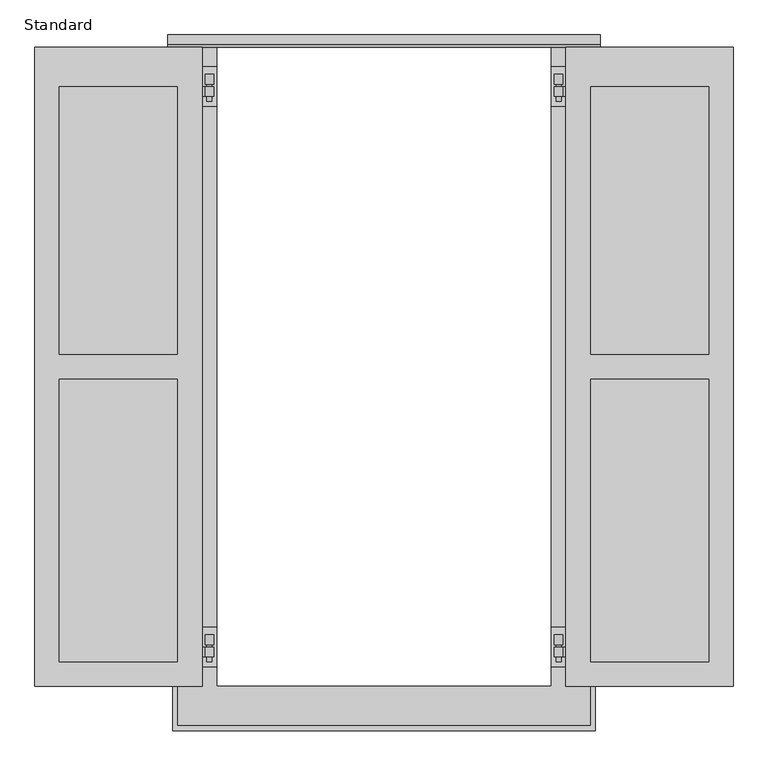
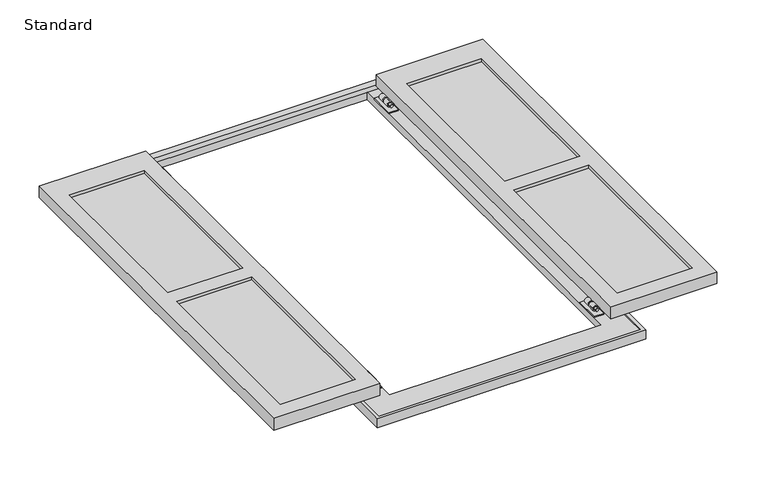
"""IFC4 building model written with IfcOpenShell, lengths in millimetres: proxy geometry, Shutters-Trim-Window-Exterior-Flat-Backband-Colonial : Standard."""

import ifcopenshell
import ifcopenshell.guid

model = None  # the IFC model being written
_history = None  # IfcOwnerHistory: only IFC2X3 demands one
_inside = {}  # id of a spatial element -> (the spatial element, [elements in it])
_under = {}  # id of a project, library or spatial element -> (it, [spatial elements below it])
_declared = {}  # id of a project -> (the project, [libraries it declares])
_typed = {}  # id of a type object -> (the type object, [elements of that type])
_made_of = {}  # id of a material, layer set ... -> (it, [elements and type objects made of it])


def new_model(schema):
    """Start an empty IFC model of exactly this schema.

    Asked for "IFC4X3", IfcOpenShell would pick the latest addendum, in which some entities
    have other attributes; the version numbers below select the first issue.
    IFC2X3 requires an IfcOwnerHistory on every rooted entity: one is made here for all.
    """
    global model, _history
    if schema == "IFC4X3":
        model = ifcopenshell.file(schema_version=(4, 3, 0, 0))
    else:
        model = ifcopenshell.file(schema=schema)
    _inside.clear()
    _under.clear()
    _declared.clear()
    _typed.clear()
    _made_of.clear()
    _history = None
    if model.schema == "IFC2X3":
        org = make("IfcOrganization", Name="unknown")
        user = make(
            "IfcPersonAndOrganization",
            ThePerson=make("IfcPerson", FamilyName="unknown"),
            TheOrganization=org,
        )
        app = make(
            "IfcApplication",
            ApplicationDeveloper=org,
            Version="unknown",
            ApplicationFullName="unknown",
            ApplicationIdentifier="unknown",
        )
        _history = make(
            "IfcOwnerHistory",
            OwningUser=user,
            OwningApplication=app,
            ChangeAction="ADDED",
            CreationDate=0,
        )
    return model


def make(cls, **values):
    """One entity of the class cls with the attributes given. An attribute that is None is left unset."""
    return model.create_entity(
        cls, **{name: value for name, value in values.items() if value is not None}
    )


def rooted(cls, **values):
    """An entity with a GlobalId (a new one), such as an element, a storey or a relation."""
    return make(cls, GlobalId=ifcopenshell.guid.new(), OwnerHistory=_history, **values)


def si_unit(unit_type, name, prefix=None):
    """IfcSIUnit, for example si_unit("LENGTHUNIT", "METRE", prefix="MILLI")."""
    return make("IfcSIUnit", UnitType=unit_type, Prefix=prefix, Name=name)


def assignment(units):
    """IfcUnitAssignment: the units of a project."""
    return None if units is None else make("IfcUnitAssignment", Units=units)


def point(xyz):
    """IfcCartesianPoint."""
    return None if xyz is None else make("IfcCartesianPoint", Coordinates=xyz)


def direction(xyz):
    """IfcDirection."""
    return None if xyz is None else make("IfcDirection", DirectionRatios=xyz)


def frame(location, z_axis=None, x_axis=None):
    """IfcAxis2Placement3D, a coordinate frame: its origin and axes. An axis left out is left unset."""
    return make(
        "IfcAxis2Placement3D",
        Location=point(location),
        Axis=direction(z_axis),
        RefDirection=direction(x_axis),
    )


def origin():
    """The frame at (0, 0, 0) with its axes left unset."""
    return frame((0.0, 0.0, 0.0))


def place(relative_to, where):
    """IfcLocalPlacement: puts the frame where relative to a parent placement (None: the world)."""
    return make(
        "IfcLocalPlacement", PlacementRelTo=relative_to, RelativePlacement=where
    )


def context(
    kind, dimensions, precision=None, world=None, true_north=None, identifier=None
):
    """IfcGeometricRepresentationContext, for example the 3D "Model" context."""
    return make(
        "IfcGeometricRepresentationContext",
        ContextIdentifier=identifier,
        ContextType=kind,
        CoordinateSpaceDimension=dimensions,
        Precision=precision,
        WorldCoordinateSystem=world,
        TrueNorth=true_north,
    )


def project(units=None, contexts=None):
    """IfcProject with its units and contexts."""
    return rooted(
        "IfcProject",
        Name="project",
        RepresentationContexts=contexts,
        UnitsInContext=assignment(units),
    )


def spatial(cls, under=None, at=None, **own):
    """A site, building, storey or space (cls), placed at a placement, below another one or the project."""
    s = rooted(cls, ObjectPlacement=at, **own)
    if under is not None:
        _under.setdefault(under.id(), (under, []))[1].append(s)
    return s


def polyline(points):
    """IfcPolyline through the points."""
    return make("IfcPolyline", Points=[point(p) for p in points])


def circle_curve(where, radius):
    """IfcCircle in the frame where."""
    return make("IfcCircle", Position=where, Radius=radius)


def outline(outer, holes=None, kind="AREA"):
    """IfcArbitraryClosedProfileDef: a profile drawn as a closed curve; with holes, ...WithVoids."""
    if holes is None:
        return make("IfcArbitraryClosedProfileDef", ProfileType=kind, OuterCurve=outer)
    return make(
        "IfcArbitraryProfileDefWithVoids",
        ProfileType=kind,
        OuterCurve=outer,
        InnerCurves=holes,
    )


def extrude(swept, where, along, depth):
    """IfcExtrudedAreaSolid: the profile swept, set in the frame where, extruded along a direction by depth."""
    return make(
        "IfcExtrudedAreaSolid",
        SweptArea=swept,
        Position=where,
        ExtrudedDirection=direction(along),
        Depth=depth,
    )


def faces_of(points, faces, orient=None, outer=None):
    """IfcFace entities. A face is a list of loops; a loop is a list of indices into points, from 0.

    orient and outer hold one flag for each loop. By default every Orientation is true, the
    first loop of a face is its IfcFaceOuterBound and the others are IfcFaceBound.
    """
    made = []
    for i, loops in enumerate(faces):
        bounds = []
        for j, loop in enumerate(loops):
            is_outer = j == 0 if outer is None else outer[i][j]
            bounds.append(
                make(
                    "IfcFaceOuterBound" if is_outer else "IfcFaceBound",
                    Bound=make("IfcPolyLoop", Polygon=[points[k] for k in loop]),
                    Orientation=True if orient is None else orient[i][j],
                )
            )
        made.append(make("IfcFace", Bounds=bounds))
    return made


def faceted_brep(points, faces, orient=None, outer=None, voids=None):
    """IfcFacetedBrep: a solid bounded by flat faces; with voids (closed shells), ...WithVoids."""
    shared = [point(p) for p in points]
    hull = make("IfcClosedShell", CfsFaces=faces_of(shared, faces, orient, outer))
    if voids is None:
        return make("IfcFacetedBrep", Outer=hull)
    return make(
        "IfcFacetedBrepWithVoids",
        Outer=hull,
        Voids=[
            make(cls, CfsFaces=faces_of(shared, fs, o, b)) for cls, fs, o, b in voids
        ],
    )


def shape(context_of_items, identifier, shape_type, items):
    """IfcShapeRepresentation: the items that make up one representation, for example the "Body"."""
    return make(
        "IfcShapeRepresentation",
        ContextOfItems=context_of_items,
        RepresentationIdentifier=identifier,
        RepresentationType=shape_type,
        Items=items,
    )


def source(mapping_origin, context_of_items, identifier, shape_type, items):
    """IfcRepresentationMap: a shape defined once, which mapped items show again and again."""
    return make(
        "IfcRepresentationMap",
        MappingOrigin=mapping_origin,
        MappedRepresentation=shape(context_of_items, identifier, shape_type, items),
    )


def transform(
    local_origin,
    x_axis=None,
    y_axis=None,
    z_axis=None,
    scale=None,
    scale2=None,
    scale3=None,
    uniform=True,
):
    """IfcCartesianTransformationOperator3D, or its non-uniform kind. x_axis, y_axis, z_axis: its Axis1, 2, 3."""
    if uniform:
        return make(
            "IfcCartesianTransformationOperator3D",
            Axis1=direction(x_axis),
            Axis2=direction(y_axis),
            LocalOrigin=point(local_origin),
            Scale=scale,
            Axis3=direction(z_axis),
        )
    return make(
        "IfcCartesianTransformationOperator3DnonUniform",
        Axis1=direction(x_axis),
        Axis2=direction(y_axis),
        LocalOrigin=point(local_origin),
        Scale=scale,
        Axis3=direction(z_axis),
        Scale2=scale2,
        Scale3=scale3,
    )


def mapped(mapping_source, mapping_target):
    """IfcMappedItem: shows the shape of a source again, moved by a transform."""
    return make(
        "IfcMappedItem", MappingSource=mapping_source, MappingTarget=mapping_target
    )


def made_of(thing, what):
    """Note that an element or type object is made of a material, layer set ...; save() writes the relation."""
    if what is not None:
        _made_of.setdefault(what.id(), (what, []))[1].append(thing)
    return thing


def element(
    cls,
    number,
    at=None,
    inside=None,
    cuts=None,
    type_object=None,
    material=None,
    context=None,
    identifier="Body",
    shape_type=None,
    held_by="IfcProductDefinitionShape",
    body=None,
    shapes=None,
    **own,
):
    """One element of the class cls, such as IfcWall. Its Tag is "e" and its number.

    at: its placement. inside: the storey or other place that contains it. cuts: it is an
    opening in that element (IfcRelVoidsElement). A single representation is given by context,
    identifier, shape_type and body (its items); several are given by shapes. held_by: the class
    of the entity that holds the representations. save() writes the other relations.
    """
    e = rooted(cls, Tag="e%d" % number, ObjectPlacement=at, **own)
    if body is not None:
        shapes = [shape(context, identifier, shape_type, body)]
    if shapes is not None:
        e.Representation = make(held_by, Representations=shapes)
    if inside is not None:
        _inside.setdefault(inside.id(), (inside, []))[1].append(e)
    if cuts is not None:
        rooted(
            "IfcRelVoidsElement", RelatingBuildingElement=cuts, RelatedOpeningElement=e
        )
    if type_object is not None:
        _typed.setdefault(type_object.id(), (type_object, []))[1].append(e)
    return made_of(e, material)


def aggregate(whole, parts):
    """IfcRelAggregates: a whole, such as a stair, and the parts it consists of."""
    return rooted("IfcRelAggregates", RelatingObject=whole, RelatedObjects=parts)


def save(model, path):
    """Write the relations noted so far, then the file.

    IfcRelAggregates (storeys below a building ...), IfcRelContainedInSpatialStructure (elements
    in a storey), IfcRelDefinesByType, IfcRelAssociatesMaterial and IfcRelDeclares: one each for
    every whole, place, type object, material and project.
    """
    for whole, parts in _under.values():
        aggregate(whole, parts)
    for where, things in _inside.values():
        rooted(
            "IfcRelContainedInSpatialStructure",
            RelatedElements=things,
            RelatingStructure=where,
        )
    for kind, things in _typed.values():
        rooted("IfcRelDefinesByType", RelatedObjects=things, RelatingType=kind)
    for what, things in _made_of.values():
        rooted("IfcRelAssociatesMaterial", RelatedObjects=things, RelatingMaterial=what)
    for by, libraries in _declared.values():
        rooted("IfcRelDeclares", RelatingContext=by, RelatedDefinitions=libraries)
    model.write(path)


def plane_surface(at):
    """IfcPlane: the flat surface through the origin of the frame at, square to its z axis."""
    return make("IfcPlane", Position=at)


def cylinder_surface(at, radius):
    """IfcCylindricalSurface: all points at the distance radius from the z axis of the frame at."""
    return make("IfcCylindricalSurface", Position=at, Radius=radius)


def revolved_surface(curve, axis_point, axis_direction):
    """IfcSurfaceOfRevolution: the curve turned about the line through axis_point along axis_direction."""
    return make(
        "IfcSurfaceOfRevolution",
        SweptCurve=make("IfcArbitraryOpenProfileDef", ProfileType="CURVE", Curve=curve),
        AxisPosition=make("IfcAxis1Placement", Location=point(axis_point), Axis=direction(axis_direction)),
    )


def advanced_brep(points, edges, surfaces, faces):
    """IfcAdvancedBrep: a solid bounded by faces that lie on surfaces and meet in shared edges.

    An edge is (start, end): straight between two places in points (the first is 0);
    or (start, end, curve); or (start, end, curve, False) where it runs against its curve.
    A face is (place in surfaces, loops), or (place, loops, False) where it looks against
    its surface's normal. A loop lists edges by number (the first is 1), with a minus sign
    where the edge is run from its end to its start. The first loop is the outer one.
    """
    corners = [point(p) for p in points]
    vertices = [make("IfcVertexPoint", VertexGeometry=c) for c in corners]
    made = []
    for start, end, *more in edges:
        made.append(
            make(
                "IfcEdgeCurve",
                EdgeStart=vertices[start],
                EdgeEnd=vertices[end],
                EdgeGeometry=more[0] if more else make("IfcPolyline", Points=[corners[start], corners[end]]),
                SameSense=more[1] if len(more) > 1 else True,
            )
        )
    hull = []
    for where, loops, *sense in faces:
        bounds = []
        for j, loop in enumerate(loops):
            ring = [make("IfcOrientedEdge", EdgeElement=made[abs(k) - 1], Orientation=k > 0) for k in loop]
            bounds.append(
                make(
                    "IfcFaceOuterBound" if j == 0 else "IfcFaceBound",
                    Bound=make("IfcEdgeLoop", EdgeList=ring),
                    Orientation=True,
                )
            )
        hull.append(make("IfcAdvancedFace", Bounds=bounds, FaceSurface=surfaces[where], SameSense=sense[0] if sense else True))
    return make("IfcAdvancedBrep", Outer=make("IfcClosedShell", CfsFaces=hull))


def standard_04e2984d(model_context):
    return source(origin(), model_context, "Body", "SolidModel", [
        extrude(outline(polyline([(-901.7, 0.0), (-901.7, 1651.0), (-469.9, 1651.0), (-469.9, 0.0), (-901.7, 0.0)]), holes=[polyline([(-838.2, 63.5), (-533.4, 63.5), (-533.4, 793.75), (-838.2, 793.75), (-838.2, 63.5)]), polyline([(-533.4, 857.25), (-533.4, 1549.4), (-838.2, 1549.4), (-838.2, 857.25), (-533.4, 857.25)])]), frame((0.0, 0.0, 44.45), z_axis=(0.0, 0.0, 1.0), x_axis=(1.0, 0.0, 0.0)), (0.0, 0.0, 1.0), 50.8),
        extrude(outline(polyline([(-838.2, 63.5), (-838.2, 793.75), (-533.4, 793.75), (-533.4, 63.5), (-838.2, 63.5)])), frame((0.0, 0.0, 57.15), z_axis=(0.0, 0.0, 1.0), x_axis=(1.0, 0.0, 0.0)), (0.0, 0.0, 1.0), 25.4),
        extrude(outline(polyline([(-533.4, 857.25), (-838.2, 857.25), (-838.2, 1549.4), (-533.4, 1549.4), (-533.4, 857.25)])), frame((0.0, 0.0, 57.15), z_axis=(0.0, 0.0, 1.0), x_axis=(1.0, 0.0, 0.0)), (0.0, 0.0, 1.0), 25.4),
        extrude(outline(polyline([(901.7, 0.0), (469.9, 0.0), (469.9, 1651.0), (901.7, 1651.0), (901.7, 0.0)]), holes=[polyline([(838.2, 63.5), (838.2, 793.75), (533.4, 793.75), (533.4, 63.5), (838.2, 63.5)]), polyline([(533.4, 857.25), (838.2, 857.25), (838.2, 1549.4), (533.4, 1549.4), (533.4, 857.25)])]), frame((0.0, 0.0, 44.45), z_axis=(0.0, 0.0, 1.0), x_axis=(1.0, 0.0, 0.0)), (0.0, 0.0, 1.0), 50.8),
        extrude(outline(polyline([(838.2, 63.5), (533.4, 63.5), (533.4, 793.75), (838.2, 793.75), (838.2, 63.5)])), frame((0.0, 0.0, 57.15), z_axis=(0.0, 0.0, 1.0), x_axis=(1.0, 0.0, 0.0)), (0.0, 0.0, 1.0), 25.4),
        extrude(outline(polyline([(533.4, 857.25), (533.4, 1549.4), (838.2, 1549.4), (838.2, 857.25), (533.4, 857.25)])), frame((0.0, 0.0, 57.15), z_axis=(0.0, 0.0, 1.0), x_axis=(1.0, 0.0, 0.0)), (0.0, 0.0, 1.0), 25.4),
        extrude(outline(polyline([(-469.9, 1498.6), (-469.9, 1600.2), (-431.8, 1600.2), (-431.8, 1498.6), (-469.9, 1498.6)])), frame((0.0, 0.0, 31.75), z_axis=(0.0, 0.0, 1.0), x_axis=(1.0, 0.0, 0.0)), (0.0, 0.0, 1.0), 4.7625),
        advanced_brep(
        [(-515.9375, 1511.3, 44.45), (-515.9375, 1511.3, 39.6875), (-490.474, 1511.3, 39.6875), (-490.474, 1511.3, 44.45), (-515.9375, 1562.1, 39.6875), (-515.9375, 1562.1, 44.45), (-490.474, 1562.1, 44.45), (-490.474, 1562.1, 39.6875), (-490.474, 1549.4, 39.6875), (-450.85, 1549.4, 39.6875), (-450.85, 1524.0, 39.6875), (-490.474, 1524.0, 39.6875), (-490.474, 1524.0, 44.45), (-450.85, 1524.0, 44.45), (-450.85, 1549.4, 44.45), (-490.474, 1549.4, 44.45), (-457.2, 1549.4, 50.8), (-457.2, 1524.0, 50.8), (-457.2, 1549.4, 46.0375), (-457.2, 1524.0, 46.0375), (-461.9625, 1549.4, 46.0375), (-461.9625, 1524.0, 46.0375), (-461.9625, 1549.4, 50.8), (-461.9625, 1524.0, 50.8)],
        [
            (0, 1),
            (1, 2),
            (2, 3),
            (3, 0),
            (4, 5),
            (5, 6),
            (6, 7),
            (7, 4),
            (1, 4),
            (7, 8),
            (8, 9),
            (9, 10),
            (10, 11),
            (11, 2),
            (0, 5),
            (3, 12),
            (12, 13),
            (13, 14),
            (14, 15),
            (15, 6),
            (16, 14, circle_curve(frame((-450.85, 1549.4, 50.8), z_axis=(0.0, 1.0, 0.0), x_axis=(1.0, 0.0, 0.0)), 6.35)),
            (13, 17, circle_curve(frame((-450.85, 1524.0, 50.8), z_axis=(0.0, -1.0, 0.0), x_axis=(1.0, 0.0, 0.0)), 6.35)),
            (17, 16),
            (18, 16),
            (17, 19),
            (19, 18),
            (20, 18),
            (19, 21),
            (21, 20),
            (22, 20),
            (21, 23),
            (23, 22),
            (9, 22, circle_curve(frame((-450.85, 1549.4, 50.8), z_axis=(0.0, -1.0, 0.0), x_axis=(1.0, 0.0, 0.0)), 11.1125)),
            (23, 10, circle_curve(frame((-450.85, 1524.0, 50.8), z_axis=(0.0, 1.0, 0.0), x_axis=(1.0, 0.0, 0.0)), 11.1125)),
            (8, 15),
            (12, 11),
        ],
        [
            plane_surface(frame((-450.85, 1511.3, 50.8), z_axis=(0.0, -1.0, 0.0), x_axis=(0.0, 0.0, 1.0))),
            plane_surface(frame((-450.85, 1562.1, 50.8), z_axis=(0.0, 1.0, 0.0), x_axis=(0.0, 0.0, 1.0))),
            plane_surface(frame((-515.9375, 1511.3, 39.6875), z_axis=(0.0, 0.0, -1.0), x_axis=(0.0, 1.0, 0.0))),
            plane_surface(frame((-515.9375, 1511.3, 44.45), z_axis=(-1.0, 0.0, 0.0), x_axis=(0.0, 1.0, 0.0))),
            plane_surface(frame((-450.85, 1511.3, 44.45), z_axis=(0.0, 0.0, 1.0), x_axis=(0.0, 1.0, 0.0))),
            revolved_surface(polyline([(-444.5, 1549.4, 50.8), (-444.5, 1524.0, 50.8)]), (-450.85, 1511.3, 50.8), (0.0, 1.0, 0.0)),
            plane_surface(frame((-457.2, 1511.3, 46.0375), z_axis=(1.0, 0.0, 0.0), x_axis=(0.0, 1.0, 0.0))),
            plane_surface(frame((-461.9625, 1511.3, 46.0375), z_axis=(0.0, 0.0, -1.0), x_axis=(0.0, 1.0, 0.0))),
            plane_surface(frame((-461.9625, 1511.3, 50.8), z_axis=(-1.0, 0.0, 0.0), x_axis=(0.0, 1.0, 0.0))),
            cylinder_surface(frame((-450.85, 1511.3, 50.8), z_axis=(0.0, -1.0, 0.0), x_axis=(1.0, 0.0, 0.0)), 11.1125),
            plane_surface(frame((-450.85, 1549.4, 50.8), z_axis=(0.0, 1.0, 0.0), x_axis=(0.0, 0.0, 1.0))),
            plane_surface(frame((-490.474, 1549.4, 44.45), z_axis=(1.0, 0.0, 0.0), x_axis=(0.0, 1.0, 0.0))),
            plane_surface(frame((-450.85, 1524.0, 50.8), z_axis=(0.0, -1.0, 0.0), x_axis=(0.0, 0.0, 1.0))),
            plane_surface(frame((-490.474, 1511.3, 44.45), z_axis=(1.0, 0.0, 0.0), x_axis=(0.0, 1.0, 0.0))),
        ],
        [
            (0, [[1, 2, 3, 4]]),
            (1, [[5, 6, 7, 8]]),
            (2, [[9, -8, 10, 11, 12, 13, 14, -2]]),
            (3, [[-1, 15, -5, -9]]),
            (4, [[-15, -4, 16, 17, 18, 19, 20, -6]]),
            (5, [[21, -18, 22, 23]]),
            (6, [[24, -23, 25, 26]]),
            (7, [[27, -26, 28, 29]]),
            (8, [[30, -29, 31, 32]]),
            (9, [[33, -32, 34, -12]]),
            (10, [[35, -19, -21, -24, -27, -30, -33, -11]]),
            (11, [[-35, -10, -7, -20]]),
            (12, [[36, -13, -34, -31, -28, -25, -22, -17]]),
            (13, [[-36, -16, -3, -14]]),
        ],
    ),
        advanced_brep(
        [(-453.23125, 1555.75, 36.5125), (-448.46875, 1555.75, 36.5125), (-448.46875, 1555.75, 39.945632), (-453.23125, 1555.75, 39.945632), (-444.5, 1555.75, 50.8), (-457.2, 1555.75, 50.8), (-453.23125, 1581.15, 36.5125), (-453.23125, 1581.15, 39.945632), (-448.46875, 1581.15, 39.945632), (-448.46875, 1581.15, 36.5125), (-457.2, 1511.3, 50.8), (-444.5, 1511.3, 50.8)],
        [
            (0, 1),
            (1, 2),
            (2, 3, circle_curve(frame((-450.85, 1555.75, 50.8), z_axis=(0.0, -1.0, 0.0), x_axis=(1.0, 0.0, 0.0)), 11.1125)),
            (3, 0),
            (4, 5, circle_curve(frame((-450.85, 1555.75, 50.8), z_axis=(0.0, 1.0, 0.0), x_axis=(1.0, 0.0, 0.0)), 6.35)),
            (5, 4, circle_curve(frame((-450.85, 1555.75, 50.8), z_axis=(0.0, 1.0, 0.0), x_axis=(1.0, 0.0, 0.0)), 6.35)),
            (6, 7),
            (7, 8, circle_curve(frame((-450.85, 1581.15, 50.8), z_axis=(0.0, 1.0, 0.0), x_axis=(1.0, 0.0, 0.0)), 11.1125)),
            (8, 9),
            (9, 6),
            (3, 7),
            (6, 0),
            (9, 1),
            (8, 2),
            (10, 11, circle_curve(frame((-450.85, 1511.3, 50.8), z_axis=(0.0, -1.0, 0.0), x_axis=(1.0, 0.0, 0.0)), 6.35)),
            (11, 10, circle_curve(frame((-450.85, 1511.3, 50.8), z_axis=(0.0, -1.0, 0.0), x_axis=(1.0, 0.0, 0.0)), 6.35)),
            (10, 5),
            (4, 11),
        ],
        [
            plane_surface(frame((-448.46875, 1555.75, 36.5125), z_axis=(0.0, -1.0, 0.0), x_axis=(1.0, 0.0, 6.23955382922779e-12))),
            plane_surface(frame((-448.46875, 1581.15, 36.5125), z_axis=(0.0, 1.0, 0.0), x_axis=(-1.0, 0.0, -6.23955382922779e-12))),
            plane_surface(frame((-453.23125, 1555.75, 39.945632), z_axis=(-1.0, 0.0, 0.0), x_axis=(0.0, 1.0, 0.0))),
            plane_surface(frame((-453.23125, 1555.75, 36.5125), z_axis=(6.23955382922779e-12, 0.0, -1.0), x_axis=(0.0, 1.0, 0.0))),
            plane_surface(frame((-448.46875, 1555.75, 36.5125), z_axis=(1.0, 0.0, 0.0), x_axis=(0.0, 1.0, 0.0))),
            cylinder_surface(frame((-450.85, 1581.15, 50.8), z_axis=(0.0, -1.0, 0.0), x_axis=(1.0, 0.0, 0.0)), 11.1125),
            plane_surface(frame((-444.5, 1511.3, 50.8), z_axis=(0.0, -1.0, 0.0), x_axis=(0.0, 0.0, 1.0))),
            cylinder_surface(frame((-450.85, 1581.15, 50.8), z_axis=(0.0, -1.0, 0.0), x_axis=(1.0, 0.0, 0.0)), 6.35),
        ],
        [
            (0, [[1, 2, 3, 4], [5, 6]]),
            (1, [[7, 8, 9, 10]]),
            (2, [[-4, 11, -7, 12]]),
            (3, [[-1, -12, -10, 13]]),
            (4, [[-2, -13, -9, 14]]),
            (5, [[-3, -14, -8, -11]]),
            (6, [[15, 16]]),
            (7, [[-15, 17, -5, 18]]),
            (7, [[-16, -18, -6, -17]]),
        ],
    ),
        extrude(outline(polyline([(469.9, 1498.6), (431.8, 1498.6), (431.8, 1600.2), (469.9, 1600.2), (469.9, 1498.6)])), frame((0.0, 0.0, 31.75), z_axis=(0.0, 0.0, 1.0), x_axis=(1.0, 0.0, 0.0)), (0.0, 0.0, 1.0), 4.7625),
        advanced_brep(
        [(515.9375, 1511.3, 44.45), (490.474, 1511.3, 44.45), (490.474, 1511.3, 39.6875), (515.9375, 1511.3, 39.6875), (515.9375, 1562.1, 39.6875), (490.474, 1562.1, 39.6875), (490.474, 1562.1, 44.45), (515.9375, 1562.1, 44.45), (490.474, 1524.0, 39.6875), (450.85, 1524.0, 39.6875), (450.85, 1549.4, 39.6875), (490.474, 1549.4, 39.6875), (490.474, 1549.4, 44.45), (450.85, 1549.4, 44.45), (450.85, 1524.0, 44.45), (490.474, 1524.0, 44.45), (457.2, 1549.4, 50.8), (457.2, 1524.0, 50.8), (457.2, 1549.4, 46.0375), (457.2, 1524.0, 46.0375), (461.9625, 1549.4, 46.0375), (461.9625, 1524.0, 46.0375), (461.9625, 1549.4, 50.8), (461.9625, 1524.0, 50.8)],
        [
            (0, 1),
            (1, 2),
            (2, 3),
            (3, 0),
            (4, 5),
            (5, 6),
            (6, 7),
            (7, 4),
            (2, 8),
            (8, 9),
            (9, 10),
            (10, 11),
            (11, 5),
            (4, 3),
            (7, 0),
            (6, 12),
            (12, 13),
            (13, 14),
            (14, 15),
            (15, 1),
            (16, 17),
            (17, 14, circle_curve(frame((450.85, 1524.0, 50.8), z_axis=(0.0, -1.0, 0.0), x_axis=(-1.0, 0.0, 0.0)), 6.35)),
            (13, 16, circle_curve(frame((450.85, 1549.4, 50.8), z_axis=(0.0, 1.0, 0.0), x_axis=(-1.0, 0.0, 0.0)), 6.35)),
            (18, 19),
            (19, 17),
            (16, 18),
            (20, 21),
            (21, 19),
            (18, 20),
            (22, 23),
            (23, 21),
            (20, 22),
            (9, 23, circle_curve(frame((450.85, 1524.0, 50.8), z_axis=(0.0, 1.0, 0.0), x_axis=(-1.0, 0.0, 0.0)), 11.1125)),
            (22, 10, circle_curve(frame((450.85, 1549.4, 50.8), z_axis=(0.0, -1.0, 0.0), x_axis=(-1.0, 0.0, 0.0)), 11.1125)),
            (12, 11),
            (8, 15),
        ],
        [
            plane_surface(frame((450.85, 1511.3, 50.8), z_axis=(0.0, -1.0, 0.0), x_axis=(0.0, 0.0, 1.0))),
            plane_surface(frame((450.85, 1562.1, 50.8), z_axis=(0.0, 1.0, 0.0), x_axis=(0.0, 0.0, 1.0))),
            plane_surface(frame((515.9375, 1511.3, 39.6875), z_axis=(0.0, 0.0, -1.0), x_axis=(0.0, 1.0, 0.0))),
            plane_surface(frame((515.9375, 1511.3, 44.45), z_axis=(1.0, 0.0, 0.0), x_axis=(0.0, 1.0, 0.0))),
            plane_surface(frame((450.85, 1511.3, 44.45), z_axis=(0.0, 0.0, 1.0), x_axis=(0.0, 1.0, 0.0))),
            revolved_surface(polyline([(444.5, 1549.4, 50.8), (444.5, 1524.0, 50.8)]), (450.85, 1511.3, 50.8), (0.0, 1.0, 0.0)),
            plane_surface(frame((457.2, 1511.3, 46.0375), z_axis=(-1.0, 0.0, 0.0), x_axis=(0.0, 1.0, 0.0))),
            plane_surface(frame((461.9625, 1511.3, 46.0375), z_axis=(0.0, 0.0, -1.0), x_axis=(0.0, 1.0, 0.0))),
            plane_surface(frame((461.9625, 1511.3, 50.8), z_axis=(1.0, 0.0, 0.0), x_axis=(0.0, 1.0, 0.0))),
            cylinder_surface(frame((450.85, 1511.3, 50.8), z_axis=(0.0, -1.0, 0.0), x_axis=(-1.0, 0.0, 0.0)), 11.1125),
            plane_surface(frame((450.85, 1549.4, 50.8), z_axis=(0.0, 1.0, 0.0), x_axis=(0.0, 0.0, 1.0))),
            plane_surface(frame((490.474, 1549.4, 44.45), z_axis=(-1.0, 0.0, 0.0), x_axis=(0.0, 1.0, 0.0))),
            plane_surface(frame((450.85, 1524.0, 50.8), z_axis=(0.0, -1.0, 0.0), x_axis=(0.0, 0.0, 1.0))),
            plane_surface(frame((490.474, 1511.3, 44.45), z_axis=(-1.0, 0.0, 0.0), x_axis=(0.0, 1.0, 0.0))),
        ],
        [
            (0, [[1, 2, 3, 4]]),
            (1, [[5, 6, 7, 8]]),
            (2, [[-3, 9, 10, 11, 12, 13, -5, 14]]),
            (3, [[-14, -8, 15, -4]]),
            (4, [[-7, 16, 17, 18, 19, 20, -1, -15]]),
            (5, [[21, 22, -18, 23]]),
            (6, [[24, 25, -21, 26]]),
            (7, [[27, 28, -24, 29]]),
            (8, [[30, 31, -27, 32]]),
            (9, [[-11, 33, -30, 34]]),
            (10, [[-12, -34, -32, -29, -26, -23, -17, 35]]),
            (11, [[-16, -6, -13, -35]]),
            (12, [[-19, -22, -25, -28, -31, -33, -10, 36]]),
            (13, [[-9, -2, -20, -36]]),
        ],
    ),
        advanced_brep(
        [(453.23125, 1555.75, 36.5125), (453.23125, 1555.75, 39.945632), (448.46875, 1555.75, 39.945632), (448.46875, 1555.75, 36.5125), (444.5, 1555.75, 50.8), (457.2, 1555.75, 50.8), (453.23125, 1581.15, 36.5125), (448.46875, 1581.15, 36.5125), (448.46875, 1581.15, 39.945632), (453.23125, 1581.15, 39.945632), (457.2, 1511.3, 50.8), (444.5, 1511.3, 50.8)],
        [
            (0, 1),
            (1, 2, circle_curve(frame((450.85, 1555.75, 50.8), z_axis=(0.0, -1.0, 0.0), x_axis=(-1.0, 0.0, 0.0)), 11.1125)),
            (2, 3),
            (3, 0),
            (4, 5, circle_curve(frame((450.85, 1555.75, 50.8), z_axis=(0.0, 1.0, 0.0), x_axis=(-1.0, 0.0, 0.0)), 6.35)),
            (5, 4, circle_curve(frame((450.85, 1555.75, 50.8), z_axis=(0.0, 1.0, 0.0), x_axis=(-1.0, 0.0, 0.0)), 6.35)),
            (6, 7),
            (7, 8),
            (8, 9, circle_curve(frame((450.85, 1581.15, 50.8), z_axis=(0.0, 1.0, 0.0), x_axis=(-1.0, 0.0, 0.0)), 11.1125)),
            (9, 6),
            (0, 6),
            (9, 1),
            (3, 7),
            (2, 8),
            (10, 11, circle_curve(frame((450.85, 1511.3, 50.8), z_axis=(0.0, -1.0, 0.0), x_axis=(-1.0, 0.0, 0.0)), 6.35)),
            (11, 10, circle_curve(frame((450.85, 1511.3, 50.8), z_axis=(0.0, -1.0, 0.0), x_axis=(-1.0, 0.0, 0.0)), 6.35)),
            (11, 4),
            (5, 10),
        ],
        [
            plane_surface(frame((448.46875, 1555.75, 36.5125), z_axis=(0.0, -1.0, 0.0), x_axis=(-1.0, 0.0, 6.246014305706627e-12))),
            plane_surface(frame((448.46875, 1581.15, 36.5125), z_axis=(0.0, 1.0, 0.0), x_axis=(1.0, 0.0, -6.246014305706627e-12))),
            plane_surface(frame((453.23125, 1555.75, 39.945632), z_axis=(1.0, 0.0, 0.0), x_axis=(0.0, 1.0, 0.0))),
            plane_surface(frame((453.23125, 1555.75, 36.5125), z_axis=(-6.246014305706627e-12, 0.0, -1.0), x_axis=(0.0, 1.0, 0.0))),
            plane_surface(frame((448.46875, 1555.75, 36.5125), z_axis=(-1.0, 0.0, 0.0), x_axis=(0.0, 1.0, 0.0))),
            cylinder_surface(frame((450.85, 1581.15, 50.8), z_axis=(0.0, -1.0, 0.0), x_axis=(-1.0, 0.0, 0.0)), 11.1125),
            plane_surface(frame((444.5, 1511.3, 50.8), z_axis=(0.0, -1.0, 0.0), x_axis=(0.0, 0.0, 1.0))),
            cylinder_surface(frame((450.85, 1581.15, 50.8), z_axis=(0.0, -1.0, 0.0), x_axis=(-1.0, 0.0, 0.0)), 6.35),
        ],
        [
            (0, [[1, 2, 3, 4], [5, 6]]),
            (1, [[7, 8, 9, 10]]),
            (2, [[11, -10, 12, -1]]),
            (3, [[13, -7, -11, -4]]),
            (4, [[14, -8, -13, -3]]),
            (5, [[-12, -9, -14, -2]]),
            (6, [[15, 16]]),
            (7, [[17, -6, 18, -16]]),
            (7, [[-18, -5, -17, -15]]),
        ],
    ),
        extrude(outline(polyline([(469.9, 50.8), (431.8, 50.8), (431.8, 152.4), (469.9, 152.4), (469.9, 50.8)])), frame((0.0, 0.0, 31.75), z_axis=(0.0, 0.0, 1.0), x_axis=(1.0, 0.0, 0.0)), (0.0, 0.0, 1.0), 4.7625),
        advanced_brep(
        [(515.9375, 63.5, 44.45), (490.474, 63.5, 44.45), (490.474, 63.5, 39.6875), (515.9375, 63.5, 39.6875), (515.9375, 114.3, 39.6875), (490.474, 114.3, 39.6875), (490.474, 114.3, 44.45), (515.9375, 114.3, 44.45), (490.474, 76.2, 39.6875), (450.85, 76.2, 39.6875), (450.85, 101.6, 39.6875), (490.474, 101.6, 39.6875), (490.474, 101.6, 44.45), (450.85, 101.6, 44.45), (450.85, 76.2, 44.45), (490.474, 76.2, 44.45), (457.2, 101.6, 50.8), (457.2, 76.2, 50.8), (457.2, 101.6, 46.0375), (457.2, 76.2, 46.0375), (461.9625, 101.6, 46.0375), (461.9625, 76.2, 46.0375), (461.9625, 101.6, 50.8), (461.9625, 76.2, 50.8)],
        [
            (0, 1),
            (1, 2),
            (2, 3),
            (3, 0),
            (4, 5),
            (5, 6),
            (6, 7),
            (7, 4),
            (2, 8),
            (8, 9),
            (9, 10),
            (10, 11),
            (11, 5),
            (4, 3),
            (7, 0),
            (6, 12),
            (12, 13),
            (13, 14),
            (14, 15),
            (15, 1),
            (16, 17),
            (17, 14, circle_curve(frame((450.85, 76.2, 50.8), z_axis=(0.0, -1.0, 0.0), x_axis=(-1.0, 0.0, 0.0)), 6.35)),
            (13, 16, circle_curve(frame((450.85, 101.6, 50.8), z_axis=(0.0, 1.0, 0.0), x_axis=(-1.0, 0.0, 0.0)), 6.35)),
            (18, 19),
            (19, 17),
            (16, 18),
            (20, 21),
            (21, 19),
            (18, 20),
            (22, 23),
            (23, 21),
            (20, 22),
            (9, 23, circle_curve(frame((450.85, 76.2, 50.8), z_axis=(0.0, 1.0, 0.0), x_axis=(-1.0, 0.0, 0.0)), 11.1125)),
            (22, 10, circle_curve(frame((450.85, 101.6, 50.8), z_axis=(0.0, -1.0, 0.0), x_axis=(-1.0, 0.0, 0.0)), 11.1125)),
            (12, 11),
            (8, 15),
        ],
        [
            plane_surface(frame((450.85, 63.5, 50.8), z_axis=(0.0, -1.0, 0.0), x_axis=(0.0, 0.0, 1.0))),
            plane_surface(frame((450.85, 114.3, 50.8), z_axis=(0.0, 1.0, 0.0), x_axis=(0.0, 0.0, 1.0))),
            plane_surface(frame((515.9375, 63.5, 39.6875), z_axis=(0.0, 0.0, -1.0), x_axis=(0.0, 1.0, 0.0))),
            plane_surface(frame((515.9375, 63.5, 44.45), z_axis=(1.0, 0.0, 0.0), x_axis=(0.0, 1.0, 0.0))),
            plane_surface(frame((450.85, 63.5, 44.45), z_axis=(0.0, 0.0, 1.0), x_axis=(0.0, 1.0, 0.0))),
            revolved_surface(polyline([(444.5, 101.6, 50.8), (444.5, 76.2, 50.8)]), (450.85, 63.5, 50.8), (0.0, 1.0, 0.0)),
            plane_surface(frame((457.2, 63.5, 46.0375), z_axis=(-1.0, 0.0, 0.0), x_axis=(0.0, 1.0, 0.0))),
            plane_surface(frame((461.9625, 63.5, 46.0375), z_axis=(0.0, 0.0, -1.0), x_axis=(0.0, 1.0, 0.0))),
            plane_surface(frame((461.9625, 63.5, 50.8), z_axis=(1.0, 0.0, 0.0), x_axis=(0.0, 1.0, 0.0))),
            cylinder_surface(frame((450.85, 63.5, 50.8), z_axis=(0.0, -1.0, 0.0), x_axis=(-1.0, 0.0, 0.0)), 11.1125),
            plane_surface(frame((450.85, 101.6, 50.8), z_axis=(0.0, 1.0, 0.0), x_axis=(0.0, 0.0, 1.0))),
            plane_surface(frame((490.474, 101.6, 44.45), z_axis=(-1.0, 0.0, 0.0), x_axis=(0.0, 1.0, 0.0))),
            plane_surface(frame((450.85, 76.2, 50.8), z_axis=(0.0, -1.0, 0.0), x_axis=(0.0, 0.0, 1.0))),
            plane_surface(frame((490.474, 63.5, 44.45), z_axis=(-1.0, 0.0, 0.0), x_axis=(0.0, 1.0, 0.0))),
        ],
        [
            (0, [[1, 2, 3, 4]]),
            (1, [[5, 6, 7, 8]]),
            (2, [[-3, 9, 10, 11, 12, 13, -5, 14]]),
            (3, [[-14, -8, 15, -4]]),
            (4, [[-7, 16, 17, 18, 19, 20, -1, -15]]),
            (5, [[21, 22, -18, 23]]),
            (6, [[24, 25, -21, 26]]),
            (7, [[27, 28, -24, 29]]),
            (8, [[30, 31, -27, 32]]),
            (9, [[-11, 33, -30, 34]]),
            (10, [[-12, -34, -32, -29, -26, -23, -17, 35]]),
            (11, [[-16, -6, -13, -35]]),
            (12, [[-19, -22, -25, -28, -31, -33, -10, 36]]),
            (13, [[-9, -2, -20, -36]]),
        ],
    ),
        advanced_brep(
        [(453.23125, 107.95, 36.5125), (453.23125, 107.95, 39.945632), (448.46875, 107.95, 39.945632), (448.46875, 107.95, 36.5125), (444.5, 107.95, 50.8), (457.2, 107.95, 50.8), (453.23125, 133.35, 36.5125), (448.46875, 133.35, 36.5125), (448.46875, 133.35, 39.945632), (453.23125, 133.35, 39.945632), (457.2, 63.5, 50.8), (444.5, 63.5, 50.8)],
        [
            (0, 1),
            (1, 2, circle_curve(frame((450.85, 107.95, 50.8), z_axis=(0.0, -1.0, 0.0), x_axis=(-1.0, 0.0, 0.0)), 11.1125)),
            (2, 3),
            (3, 0),
            (4, 5, circle_curve(frame((450.85, 107.95, 50.8), z_axis=(0.0, 1.0, 0.0), x_axis=(-1.0, 0.0, 0.0)), 6.35)),
            (5, 4, circle_curve(frame((450.85, 107.95, 50.8), z_axis=(0.0, 1.0, 0.0), x_axis=(-1.0, 0.0, 0.0)), 6.35)),
            (6, 7),
            (7, 8),
            (8, 9, circle_curve(frame((450.85, 133.35, 50.8), z_axis=(0.0, 1.0, 0.0), x_axis=(-1.0, 0.0, 0.0)), 11.1125)),
            (9, 6),
            (0, 6),
            (9, 1),
            (3, 7),
            (2, 8),
            (10, 11, circle_curve(frame((450.85, 63.5, 50.8), z_axis=(0.0, -1.0, 0.0), x_axis=(-1.0, 0.0, 0.0)), 6.35)),
            (11, 10, circle_curve(frame((450.85, 63.5, 50.8), z_axis=(0.0, -1.0, 0.0), x_axis=(-1.0, 0.0, 0.0)), 6.35)),
            (11, 4),
            (5, 10),
        ],
        [
            plane_surface(frame((448.46875, 107.95, 36.5125), z_axis=(0.0, -1.0, 0.0), x_axis=(-1.0, 0.0, 6.246014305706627e-12))),
            plane_surface(frame((448.46875, 133.35, 36.5125), z_axis=(0.0, 1.0, 0.0), x_axis=(1.0, 0.0, -6.246014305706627e-12))),
            plane_surface(frame((453.23125, 107.95, 39.945632), z_axis=(1.0, 0.0, 0.0), x_axis=(0.0, 1.0, 0.0))),
            plane_surface(frame((453.23125, 107.95, 36.5125), z_axis=(-6.246014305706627e-12, 0.0, -1.0), x_axis=(0.0, 1.0, 0.0))),
            plane_surface(frame((448.46875, 107.95, 36.5125), z_axis=(-1.0, 0.0, 0.0), x_axis=(0.0, 1.0, 0.0))),
            cylinder_surface(frame((450.85, 133.35, 50.8), z_axis=(0.0, -1.0, 0.0), x_axis=(-1.0, 0.0, 0.0)), 11.1125),
            plane_surface(frame((444.5, 63.5, 50.8), z_axis=(0.0, -1.0, 0.0), x_axis=(0.0, 0.0, 1.0))),
            cylinder_surface(frame((450.85, 133.35, 50.8), z_axis=(0.0, -1.0, 0.0), x_axis=(-1.0, 0.0, 0.0)), 6.35),
        ],
        [
            (0, [[1, 2, 3, 4], [5, 6]]),
            (1, [[7, 8, 9, 10]]),
            (2, [[11, -10, 12, -1]]),
            (3, [[13, -7, -11, -4]]),
            (4, [[14, -8, -13, -3]]),
            (5, [[-12, -9, -14, -2]]),
            (6, [[15, 16]]),
            (7, [[17, -6, 18, -16]]),
            (7, [[-18, -5, -17, -15]]),
        ],
    ),
        extrude(outline(polyline([(-469.9, 50.8), (-469.9, 152.4), (-431.8, 152.4), (-431.8, 50.8), (-469.9, 50.8)])), frame((0.0, 0.0, 31.75), z_axis=(0.0, 0.0, 1.0), x_axis=(1.0, 0.0, 0.0)), (0.0, 0.0, 1.0), 4.7625),
        advanced_brep(
        [(-515.9375, 63.5, 44.45), (-515.9375, 63.5, 39.6875), (-490.474, 63.5, 39.6875), (-490.474, 63.5, 44.45), (-515.9375, 114.3, 39.6875), (-515.9375, 114.3, 44.45), (-490.474, 114.3, 44.45), (-490.474, 114.3, 39.6875), (-490.474, 101.6, 39.6875), (-450.85, 101.6, 39.6875), (-450.85, 76.2, 39.6875), (-490.474, 76.2, 39.6875), (-490.474, 76.2, 44.45), (-450.85, 76.2, 44.45), (-450.85, 101.6, 44.45), (-490.474, 101.6, 44.45), (-457.2, 101.6, 50.8), (-457.2, 76.2, 50.8), (-457.2, 101.6, 46.0375), (-457.2, 76.2, 46.0375), (-461.9625, 101.6, 46.0375), (-461.9625, 76.2, 46.0375), (-461.9625, 101.6, 50.8), (-461.9625, 76.2, 50.8)],
        [
            (0, 1),
            (1, 2),
            (2, 3),
            (3, 0),
            (4, 5),
            (5, 6),
            (6, 7),
            (7, 4),
            (1, 4),
            (7, 8),
            (8, 9),
            (9, 10),
            (10, 11),
            (11, 2),
            (0, 5),
            (3, 12),
            (12, 13),
            (13, 14),
            (14, 15),
            (15, 6),
            (16, 14, circle_curve(frame((-450.85, 101.6, 50.8), z_axis=(0.0, 1.0, 0.0), x_axis=(1.0, 0.0, 0.0)), 6.35)),
            (13, 17, circle_curve(frame((-450.85, 76.2, 50.8), z_axis=(0.0, -1.0, 0.0), x_axis=(1.0, 0.0, 0.0)), 6.35)),
            (17, 16),
            (18, 16),
            (17, 19),
            (19, 18),
            (20, 18),
            (19, 21),
            (21, 20),
            (22, 20),
            (21, 23),
            (23, 22),
            (9, 22, circle_curve(frame((-450.85, 101.6, 50.8), z_axis=(0.0, -1.0, 0.0), x_axis=(1.0, 0.0, 0.0)), 11.1125)),
            (23, 10, circle_curve(frame((-450.85, 76.2, 50.8), z_axis=(0.0, 1.0, 0.0), x_axis=(1.0, 0.0, 0.0)), 11.1125)),
            (8, 15),
            (12, 11),
        ],
        [
            plane_surface(frame((-450.85, 63.5, 50.8), z_axis=(0.0, -1.0, 0.0), x_axis=(0.0, 0.0, 1.0))),
            plane_surface(frame((-450.85, 114.3, 50.8), z_axis=(0.0, 1.0, 0.0), x_axis=(0.0, 0.0, 1.0))),
            plane_surface(frame((-515.9375, 63.5, 39.6875), z_axis=(0.0, 0.0, -1.0), x_axis=(0.0, 1.0, 0.0))),
            plane_surface(frame((-515.9375, 63.5, 44.45), z_axis=(-1.0, 0.0, 0.0), x_axis=(0.0, 1.0, 0.0))),
            plane_surface(frame((-450.85, 63.5, 44.45), z_axis=(0.0, 0.0, 1.0), x_axis=(0.0, 1.0, 0.0))),
            revolved_surface(polyline([(-444.5, 101.6, 50.8), (-444.5, 76.2, 50.8)]), (-450.85, 63.5, 50.8), (0.0, 1.0, 0.0)),
            plane_surface(frame((-457.2, 63.5, 46.0375), z_axis=(1.0, 0.0, 0.0), x_axis=(0.0, 1.0, 0.0))),
            plane_surface(frame((-461.9625, 63.5, 46.0375), z_axis=(0.0, 0.0, -1.0), x_axis=(0.0, 1.0, 0.0))),
            plane_surface(frame((-461.9625, 63.5, 50.8), z_axis=(-1.0, 0.0, 0.0), x_axis=(0.0, 1.0, 0.0))),
            cylinder_surface(frame((-450.85, 63.5, 50.8), z_axis=(0.0, -1.0, 0.0), x_axis=(1.0, 0.0, 0.0)), 11.1125),
            plane_surface(frame((-450.85, 101.6, 50.8), z_axis=(0.0, 1.0, 0.0), x_axis=(0.0, 0.0, 1.0))),
            plane_surface(frame((-490.474, 101.6, 44.45), z_axis=(1.0, 0.0, 0.0), x_axis=(0.0, 1.0, 0.0))),
            plane_surface(frame((-450.85, 76.2, 50.8), z_axis=(0.0, -1.0, 0.0), x_axis=(0.0, 0.0, 1.0))),
            plane_surface(frame((-490.474, 63.5, 44.45), z_axis=(1.0, 0.0, 0.0), x_axis=(0.0, 1.0, 0.0))),
        ],
        [
            (0, [[1, 2, 3, 4]]),
            (1, [[5, 6, 7, 8]]),
            (2, [[9, -8, 10, 11, 12, 13, 14, -2]]),
            (3, [[-1, 15, -5, -9]]),
            (4, [[-15, -4, 16, 17, 18, 19, 20, -6]]),
            (5, [[21, -18, 22, 23]]),
            (6, [[24, -23, 25, 26]]),
            (7, [[27, -26, 28, 29]]),
            (8, [[30, -29, 31, 32]]),
            (9, [[33, -32, 34, -12]]),
            (10, [[35, -19, -21, -24, -27, -30, -33, -11]]),
            (11, [[-35, -10, -7, -20]]),
            (12, [[36, -13, -34, -31, -28, -25, -22, -17]]),
            (13, [[-36, -16, -3, -14]]),
        ],
    ),
        advanced_brep(
        [(-453.23125, 107.95, 36.5125), (-448.46875, 107.95, 36.5125), (-448.46875, 107.95, 39.945632), (-453.23125, 107.95, 39.945632), (-444.5, 107.95, 50.8), (-457.2, 107.95, 50.8), (-453.23125, 133.35, 36.5125), (-453.23125, 133.35, 39.945632), (-448.46875, 133.35, 39.945632), (-448.46875, 133.35, 36.5125), (-457.2, 63.5, 50.8), (-444.5, 63.5, 50.8)],
        [
            (0, 1),
            (1, 2),
            (2, 3, circle_curve(frame((-450.85, 107.95, 50.8), z_axis=(0.0, -1.0, 0.0), x_axis=(1.0, 0.0, 0.0)), 11.1125)),
            (3, 0),
            (4, 5, circle_curve(frame((-450.85, 107.95, 50.8), z_axis=(0.0, 1.0, 0.0), x_axis=(1.0, 0.0, 0.0)), 6.35)),
            (5, 4, circle_curve(frame((-450.85, 107.95, 50.8), z_axis=(0.0, 1.0, 0.0), x_axis=(1.0, 0.0, 0.0)), 6.35)),
            (6, 7),
            (7, 8, circle_curve(frame((-450.85, 133.35, 50.8), z_axis=(0.0, 1.0, 0.0), x_axis=(1.0, 0.0, 0.0)), 11.1125)),
            (8, 9),
            (9, 6),
            (3, 7),
            (6, 0),
            (9, 1),
            (8, 2),
            (10, 11, circle_curve(frame((-450.85, 63.5, 50.8), z_axis=(0.0, -1.0, 0.0), x_axis=(1.0, 0.0, 0.0)), 6.35)),
            (11, 10, circle_curve(frame((-450.85, 63.5, 50.8), z_axis=(0.0, -1.0, 0.0), x_axis=(1.0, 0.0, 0.0)), 6.35)),
            (10, 5),
            (4, 11),
        ],
        [
            plane_surface(frame((-448.46875, 107.95, 36.5125), z_axis=(0.0, -1.0, 0.0), x_axis=(1.0, 0.0, 6.23955382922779e-12))),
            plane_surface(frame((-448.46875, 133.35, 36.5125), z_axis=(0.0, 1.0, 0.0), x_axis=(-1.0, 0.0, -6.23955382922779e-12))),
            plane_surface(frame((-453.23125, 107.95, 39.945632), z_axis=(-1.0, 0.0, 0.0), x_axis=(0.0, 1.0, 0.0))),
            plane_surface(frame((-453.23125, 107.95, 36.5125), z_axis=(6.23955382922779e-12, 0.0, -1.0), x_axis=(0.0, 1.0, 0.0))),
            plane_surface(frame((-448.46875, 107.95, 36.5125), z_axis=(1.0, 0.0, 0.0), x_axis=(0.0, 1.0, 0.0))),
            cylinder_surface(frame((-450.85, 133.35, 50.8), z_axis=(0.0, -1.0, 0.0), x_axis=(1.0, 0.0, 0.0)), 11.1125),
            plane_surface(frame((-444.5, 63.5, 50.8), z_axis=(0.0, -1.0, 0.0), x_axis=(0.0, 0.0, 1.0))),
            cylinder_surface(frame((-450.85, 133.35, 50.8), z_axis=(0.0, -1.0, 0.0), x_axis=(1.0, 0.0, 0.0)), 6.35),
        ],
        [
            (0, [[1, 2, 3, 4], [5, 6]]),
            (1, [[7, 8, 9, 10]]),
            (2, [[-4, 11, -7, 12]]),
            (3, [[-1, -12, -10, 13]]),
            (4, [[-2, -13, -9, 14]]),
            (5, [[-3, -14, -8, -11]]),
            (6, [[15, 16]]),
            (7, [[-15, 17, -5, 18]]),
            (7, [[-16, -18, -6, -17]]),
        ],
    ),
        extrude(outline(polyline([(1651.0, 31.75), (1656.7780275, 47.625), (1682.75, 47.625), (1682.75, 0.0), (1651.0, 0.0), (1651.0, 31.75)])), frame((-558.8, 0.0, 0.0), z_axis=(1.0, 0.0, 0.0), x_axis=(0.0, 1.0, 0.0)), (0.0, 0.0, 1.0), 1117.6),
        faceted_brep([(431.8, 1651.0, 31.75), (533.4, 1651.0, 31.75), (533.4, 1651.0, 38.1), (546.1, 1651.0, 38.1), (546.1, 1651.0, 0.0), (431.8, 1651.0, 0.0), (-431.8, 1651.0, 31.75), (-431.8, 1651.0, 0.0), (-546.1, 1651.0, 0.0), (-546.1, 1651.0, 38.1), (-533.4, 1651.0, 38.1), (-533.4, 1651.0, 31.75), (431.8, 0.0, 0.0), (431.8, 0.0, 31.75), (546.1, -114.3, 0.0), (-546.1, -114.3, 0.0), (-431.8, 0.0, 0.0), (546.1, -114.3, 38.1), (533.4, -101.6, 38.1), (-533.4, -101.6, 38.1), (-546.1, -114.3, 38.1), (533.4, -101.6, 31.75), (-431.8, 0.0, 31.75), (-533.4, -101.6, 31.75)], [[[0, 1, 2, 3, 4, 5]], [[6, 7, 8, 9, 10, 11]], [[5, 12, 13, 0]], [[4, 14, 15, 8, 7, 16, 12, 5]], [[3, 17, 14, 4]], [[2, 18, 19, 10, 9, 20, 17, 3]], [[1, 21, 18, 2]], [[0, 13, 22, 6, 11, 23, 21, 1]], [[12, 16, 22, 13]], [[17, 20, 15, 14]], [[21, 23, 19, 18]], [[16, 7, 6, 22]], [[20, 9, 8, 15]], [[23, 11, 10, 19]]]),
    ])


if __name__ == "__main__":
    model = new_model("IFC4")
    model_context = context("Model", 3, world=origin())
    ifc_project = project(units=[si_unit("LENGTHUNIT", "METRE", prefix="MILLI")], contexts=[model_context])
    site = spatial("IfcSite", under=ifc_project)
    building = spatial("IfcBuilding", under=site)
    placement = place(None, origin())
    standard_shape = standard_04e2984d(model_context)
    element("IfcBuildingElementProxy", 1, Name="Shutters-Trim-Window-Exterior-Flat-Backband-Colonial : Standard", ObjectType="Shutters-Trim-Window-Exterior-Flat-Backband-Colonial : Standard", at=placement, inside=building, context=model_context, shape_type="MappedRepresentation", body=[
        mapped(standard_shape, transform((0.0, 0.0, 0.0), x_axis=(1.0, 0.0, 0.0), y_axis=(0.0, 1.0, 0.0), z_axis=(0.0, 0.0, 1.0))),
    ])
    save(model, "model.ifc")
